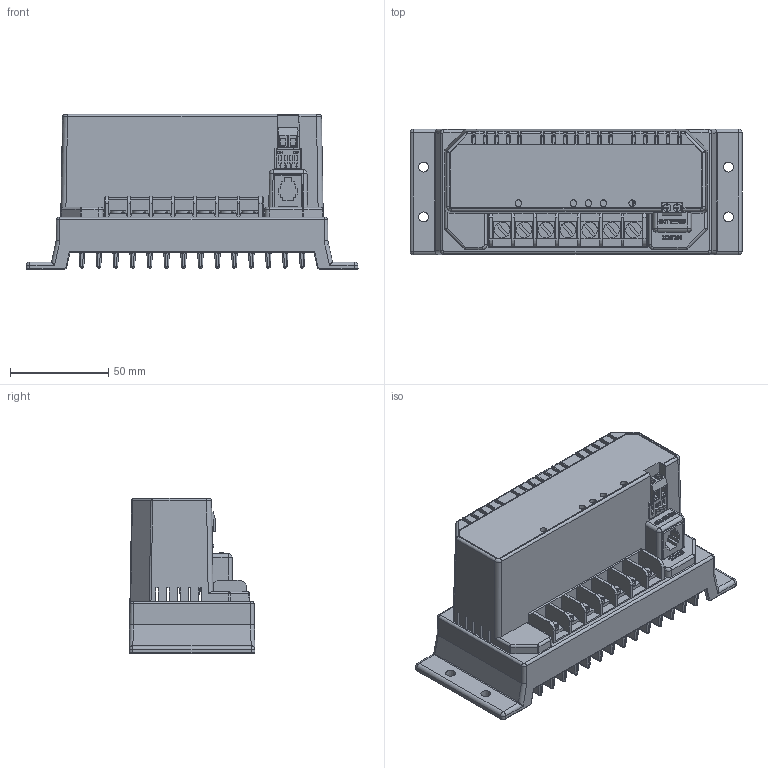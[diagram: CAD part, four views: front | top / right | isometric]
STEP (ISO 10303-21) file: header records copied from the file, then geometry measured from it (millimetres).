
FILE_DESCRIPTION(/* description */ ('Unknown'),/* implementation_level */ '2;1');
FILE_NAME(/* name */ 'SSPPT_PUBLIC',/* time_stamp */ '2017-02-27T10:55:30-05:00',/* author */ ('Unknown'),/* organization */ ('Unknown'),/* preprocessor_version */ 'ST-DEVELOPER v16.7',/* originating_system */ 'DEX',/* authorisation */ $);
FILE_SCHEMA (('AUTOMOTIVE_DESIGN {1 0 10303 214 3 1 1}'));
Products named in the file (1): SSPPT_PUBLIC
Bounding box: 168.77 x 64 x 78.87 mm (x, y, z)
Volume: 147016.3 mm3; surface area: 129781.2 mm2
Topology: 5 solids, 5 shells, 2668 faces, 7056 edges, 4398 vertices
Faces by surface type: plane 1376, cylinder 791, bspline 336, torus 98, cone 41, sphere 26
Full cylindrical faces by diameter (mm): 0.559 x8, 0.889 x2, 1.27 x7, 3.175 x2, 3.683 x5, 3.937 x2, 7.62 x1, 7.874 x7
Entity records: 96356 total; most frequent: CARTESIAN_POINT 31071, ORIENTED_EDGE 13822, DIRECTION 13274, EDGE_CURVE 6911, LINE 4538, VECTOR 4538, VERTEX_POINT 4376, AXIS2_PLACEMENT_3D 4368
